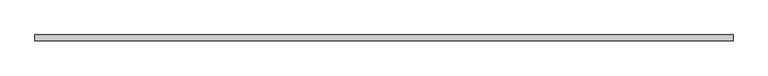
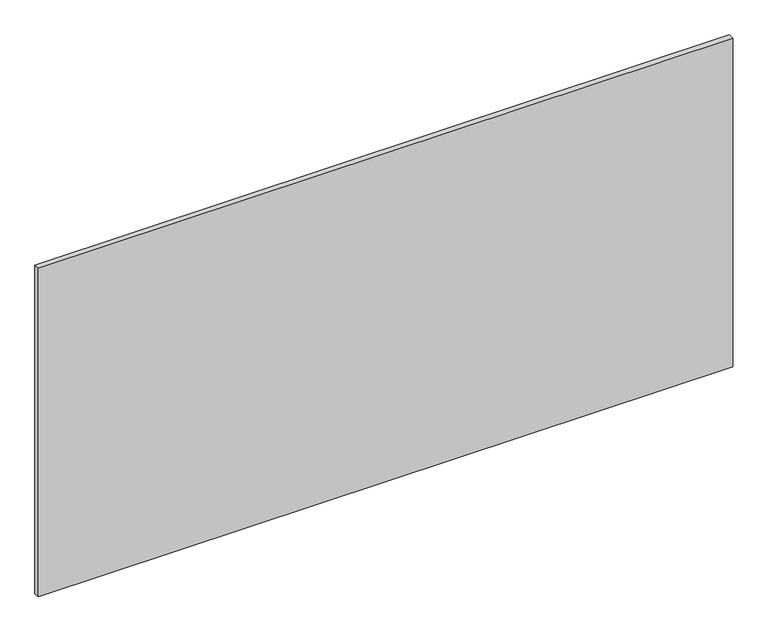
"""IFC4 building model written with IfcOpenShell, lengths in millimetres: plate geometry, 系统嵌板 : 玻璃."""

from ifc_helpers import new_model, si_unit, origin, origin_with_axes, place, context, project, spatial, polyline, outline, extrude, source, transform, mapped, element, save


def plate_b491c4e8(model_context):
    return source(origin(), model_context, "Body", "SweptSolid", [
        extrude(outline(polyline([(1500.0, -12.5), (-1500.0, -12.5), (-1500.0, 12.5), (1500.0, 12.5), (1500.0, -12.5)])), origin_with_axes(), (0.0, 0.0, 1.0), 1500.0),
    ])


if __name__ == "__main__":
    model = new_model("IFC4")
    model_context = context("Model", 3, world=origin())
    ifc_project = project(units=[si_unit("LENGTHUNIT", "METRE", prefix="MILLI")], contexts=[model_context])
    site = spatial("IfcSite", under=ifc_project)
    building = spatial("IfcBuilding", under=site)
    placement = place(None, origin())
    plate_shape = plate_b491c4e8(model_context)
    element("IfcPlate", 1, ObjectType="系统嵌板 : 玻璃", at=placement, inside=building, context=model_context, shape_type="MappedRepresentation", body=[
        mapped(plate_shape, transform((0.0, 0.0, 0.0), x_axis=(1.0, 0.0, 0.0), y_axis=(0.0, 1.0, 0.0), z_axis=(0.0, 0.0, 1.0))),
    ])
    save(model, "model.ifc")
